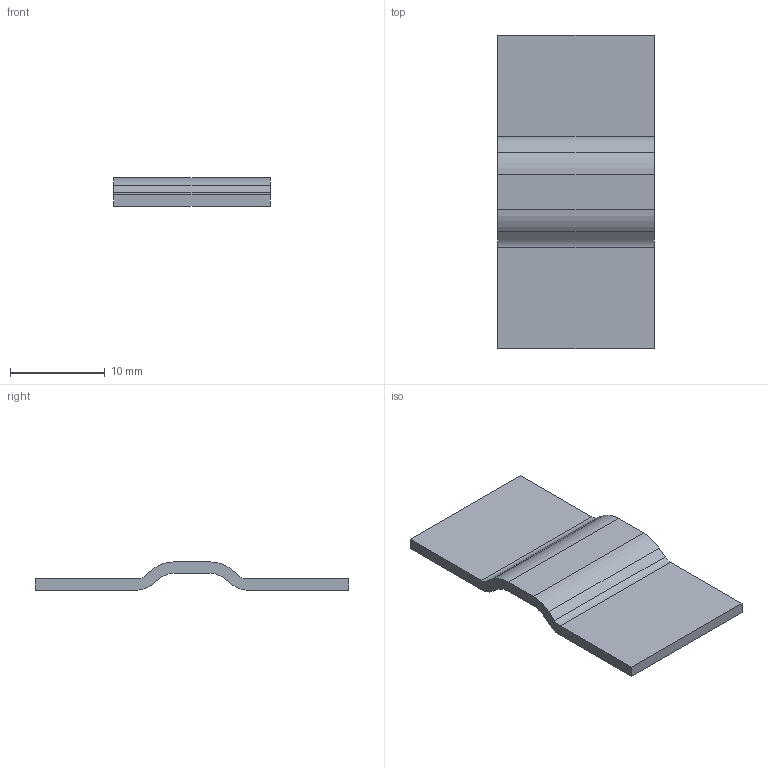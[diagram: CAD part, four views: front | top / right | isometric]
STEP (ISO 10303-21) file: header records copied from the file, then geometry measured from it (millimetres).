
FILE_DESCRIPTION((''),'2;1');
FILE_NAME('C:/Users/ericfrey/Desktop/407-6239-00-2 TEST REV 03.STP', '2021-03-25T19:18:08',(''), (''), 'KCM Version 2.0.6974.6974', 'KeyCreator Pro', '');
FILE_SCHEMA(('AUTOMOTIVE_DESIGN'));
Length unit declared in the file: inch
Bounding box: 16.5 x 33.15 x 3 mm (x, y, z)
Volume: 676 mm3; surface area: 1248.2 mm2
Topology: 1 solids, 1 shells, 22 faces, 60 edges, 40 vertices
Faces by surface type: plane 14, cylinder 8
Entity records: 901 total; most frequent: CARTESIAN_POINT 123, DIRECTION 122, ORIENTED_EDGE 120, EDGE_CURVE 60, VECTOR 44, LINE 44, VERTEX_POINT 40, AXIS2_PLACEMENT_3D 39
